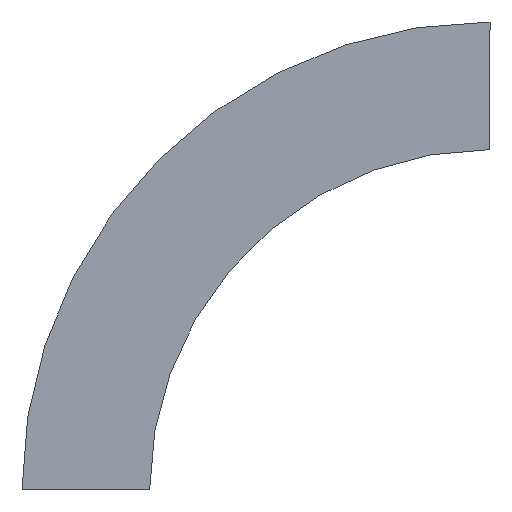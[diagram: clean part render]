
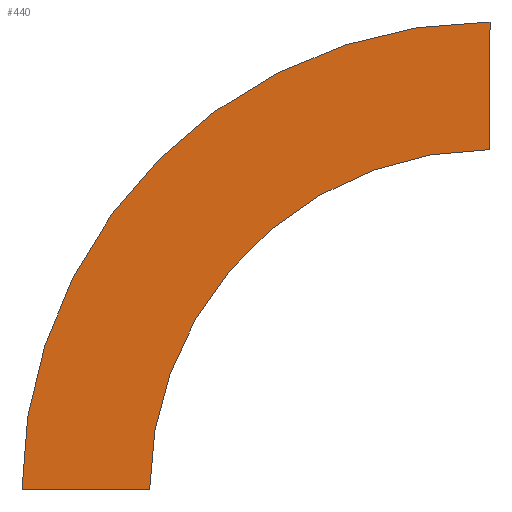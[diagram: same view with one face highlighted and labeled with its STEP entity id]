
A CAD part, left-side view. The second image highlights one B-rep face of the part: STEP entity #440.
In plain terms, the highlighted planar face has unit normal (-1, 0, 0) as drawn and (1, 0, 0) by its records, which use the part's own axes.
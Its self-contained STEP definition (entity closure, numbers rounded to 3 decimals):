
#3 = DIRECTION ( 'NONE',  ( 1., 0., 0. ) ) ;
#8 = EDGE_CURVE ( 'NONE', #38, #41, #277, .T. ) ;
#16 = VERTEX_POINT ( 'NONE', #371 ) ;
#18 = FACE_OUTER_BOUND ( 'NONE', #342, .T. ) ;
#21 = VERTEX_POINT ( 'NONE', #93 ) ;
#30 = CIRCLE ( 'NONE', #458, 300. ) ;
#38 = VERTEX_POINT ( 'NONE', #293 ) ;
#41 = VERTEX_POINT ( 'NONE', #344 ) ;
#48 = EDGE_CURVE ( 'NONE', #41, #16, #423, .T. ) ;
#62 = EDGE_CURVE ( 'NONE', #38, #21, #30, .T. ) ;
#93 = CARTESIAN_POINT ( 'NONE',  ( 0., -300., 300. ) ) ;
#158 = EDGE_CURVE ( 'NONE', #21, #16, #231, .T. ) ;
#187 = DIRECTION ( 'NONE',  ( 0., 1., 0. ) ) ;
#192 = DIRECTION ( 'NONE',  ( 0., 0., -1. ) ) ;
#221 = AXIS2_PLACEMENT_3D ( 'NONE', #280, #3, #192 ) ;
#231 = LINE ( 'NONE', #328, #368 ) ;
#250 = ORIENTED_EDGE ( 'NONE', *, *, #8, .T. ) ;
#253 = AXIS2_PLACEMENT_3D ( 'NONE', #517, #474, #341 ) ;
#260 = CARTESIAN_POINT ( 'NONE',  ( 0., -300., 0. ) ) ;
#273 = DIRECTION ( 'NONE',  ( 0., 0., 1. ) ) ;
#277 = LINE ( 'NONE', #442, #419 ) ;
#280 = CARTESIAN_POINT ( 'NONE',  ( 0., 0., 0. ) ) ;
#293 = CARTESIAN_POINT ( 'NONE',  ( 0., 0., 0. ) ) ;
#306 = DIRECTION ( 'NONE',  ( 0., 1., 0. ) ) ;
#313 = ORIENTED_EDGE ( 'NONE', *, *, #62, .F. ) ;
#326 = ORIENTED_EDGE ( 'NONE', *, *, #48, .T. ) ;
#328 = CARTESIAN_POINT ( 'NONE',  ( 0., -300., 300. ) ) ;
#341 = DIRECTION ( 'NONE',  ( 0., 1., 0. ) ) ;
#342 = EDGE_LOOP ( 'NONE', ( #326, #450, #313, #250 ) ) ;
#344 = CARTESIAN_POINT ( 'NONE',  ( 0., 112.5, 0. ) ) ;
#368 = VECTOR ( 'NONE', #273, 1000. ) ;
#371 = CARTESIAN_POINT ( 'NONE',  ( 0., -300., 412.5 ) ) ;
#419 = VECTOR ( 'NONE', #187, 1000. ) ;
#423 = CIRCLE ( 'NONE', #253, 412.5 ) ;
#427 = DIRECTION ( 'NONE',  ( 1., 0., 0. ) ) ;
#440 = ADVANCED_FACE ( 'NONE', ( #18 ), #515, .T. ) ;
#442 = CARTESIAN_POINT ( 'NONE',  ( 0., 0., 0. ) ) ;
#450 = ORIENTED_EDGE ( 'NONE', *, *, #158, .F. ) ;
#458 = AXIS2_PLACEMENT_3D ( 'NONE', #260, #427, #306 ) ;
#474 = DIRECTION ( 'NONE',  ( 1., 0., 0. ) ) ;
#515 = PLANE ( 'NONE',  #221 ) ;
#517 = CARTESIAN_POINT ( 'NONE',  ( 0., -300., 0. ) ) ;
